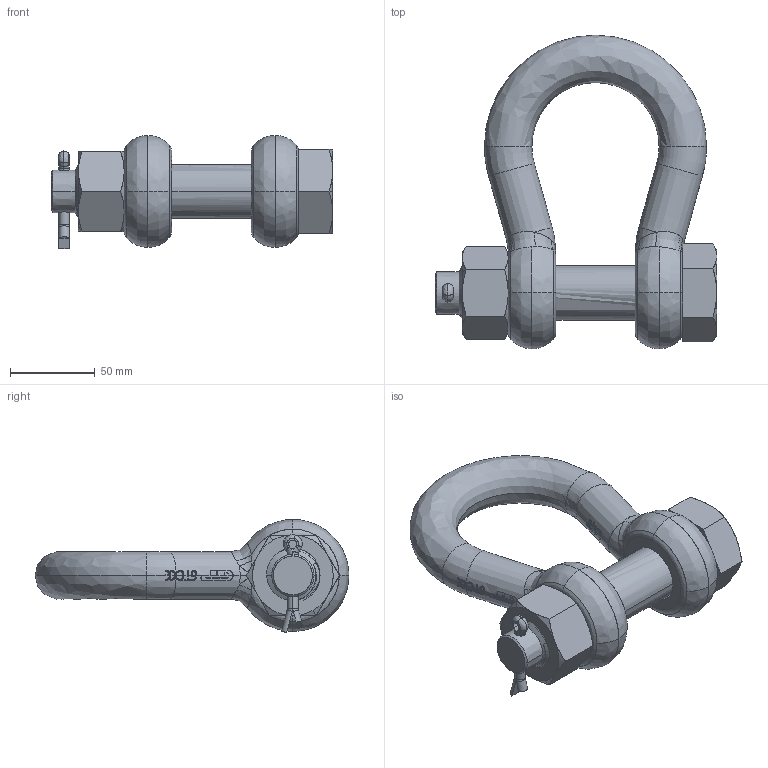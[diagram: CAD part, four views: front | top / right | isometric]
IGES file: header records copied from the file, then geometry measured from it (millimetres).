
Start section: START RECORD GO HERE.
Global section: file name: 9,5.igs; native system: Solidworks 2009                             ; preprocessor: Solidworks 2009            ; author: v.b.; organization: P4; date: 20090807.082451; units: millimetre
Bounding box: 166 x 185 x 66.69 mm (x, y, z)
Surface area: 83907.1 mm2 (no closed solid volume)
Topology: 0 solids, 0 shells, 773 faces, 5038 edges, 5030 vertices
Faces by surface type: bspline 345, plane 251, revolution 177
